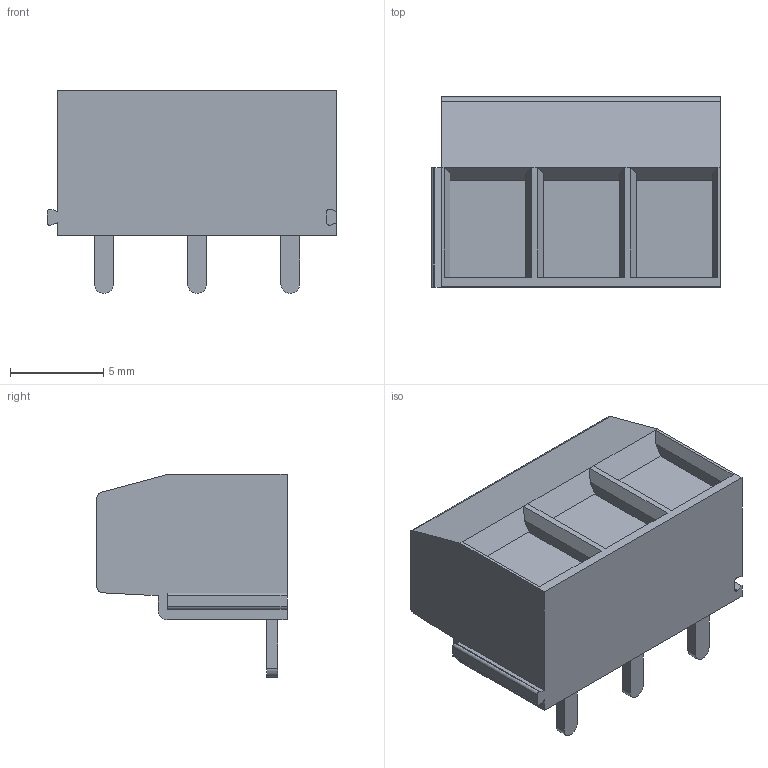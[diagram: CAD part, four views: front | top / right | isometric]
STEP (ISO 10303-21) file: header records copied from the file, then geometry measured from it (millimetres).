
FILE_DESCRIPTION (( 'STEP AP203' ), '1' );
FILE_NAME ('BR3R-03.STEP', '2020-02-20T03:55:42', ( '' ), ( '' ), 'SwSTEP 2.0', 'SolidWorks 2019', '' );
FILE_SCHEMA (( 'CONFIG_CONTROL_DESIGN' ));
Length unit declared in the file: millimetre
Products named in the file (1): BR3R-03
Bounding box: 15.55 x 10.2 x 10.9 mm (x, y, z)
Volume: 983.9 mm3; surface area: 929.7 mm2
Topology: 1 solids, 1 shells, 181 faces, 459 edges, 289 vertices
Faces by surface type: plane 110, torus 27, cylinder 26, cone 18
Entity records: 5580 total; most frequent: CARTESIAN_POINT 1086, DIRECTION 929, ORIENTED_EDGE 918, EDGE_CURVE 459, AXIS2_PLACEMENT_3D 312, LINE 305, VECTOR 305, VERTEX_POINT 289
